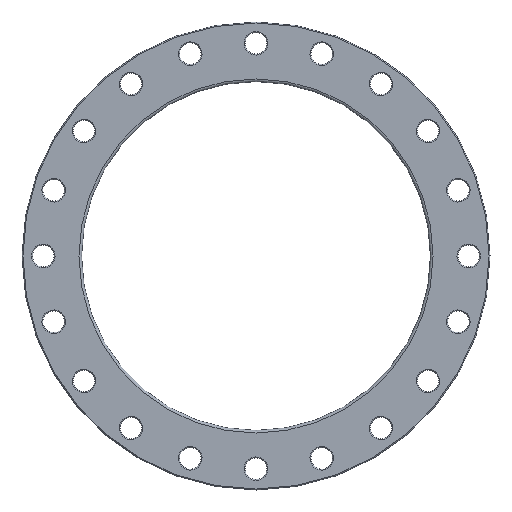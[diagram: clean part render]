
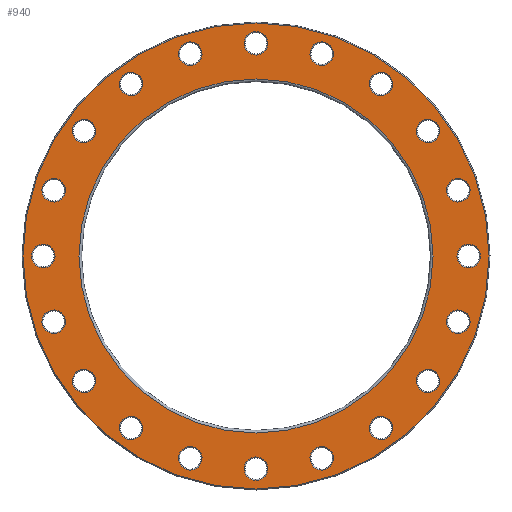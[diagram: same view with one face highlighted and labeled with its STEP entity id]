
A CAD part, front view. The second image highlights one B-rep face of the part: STEP entity #940.
In plain terms, the highlighted planar face has unit normal (0, -1, 0).
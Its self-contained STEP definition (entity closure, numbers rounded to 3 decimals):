
#23=PLANE('',#1104);
#206=ORIENTED_EDGE('',*,*,#325,.T.);
#207=ORIENTED_EDGE('',*,*,#326,.T.);
#208=ORIENTED_EDGE('',*,*,#244,.T.);
#209=ORIENTED_EDGE('',*,*,#248,.T.);
#210=ORIENTED_EDGE('',*,*,#252,.T.);
#211=ORIENTED_EDGE('',*,*,#256,.T.);
#212=ORIENTED_EDGE('',*,*,#260,.T.);
#213=ORIENTED_EDGE('',*,*,#264,.T.);
#214=ORIENTED_EDGE('',*,*,#268,.T.);
#215=ORIENTED_EDGE('',*,*,#272,.T.);
#216=ORIENTED_EDGE('',*,*,#276,.T.);
#217=ORIENTED_EDGE('',*,*,#280,.T.);
#218=ORIENTED_EDGE('',*,*,#284,.T.);
#219=ORIENTED_EDGE('',*,*,#288,.T.);
#220=ORIENTED_EDGE('',*,*,#292,.T.);
#221=ORIENTED_EDGE('',*,*,#296,.T.);
#222=ORIENTED_EDGE('',*,*,#300,.T.);
#223=ORIENTED_EDGE('',*,*,#304,.T.);
#224=ORIENTED_EDGE('',*,*,#308,.T.);
#225=ORIENTED_EDGE('',*,*,#312,.T.);
#226=ORIENTED_EDGE('',*,*,#316,.T.);
#227=ORIENTED_EDGE('',*,*,#327,.T.);
#244=EDGE_CURVE('',#332,#332,#420,.T.);
#248=EDGE_CURVE('',#336,#336,#424,.T.);
#252=EDGE_CURVE('',#340,#340,#428,.T.);
#256=EDGE_CURVE('',#344,#344,#432,.T.);
#260=EDGE_CURVE('',#348,#348,#436,.T.);
#264=EDGE_CURVE('',#352,#352,#440,.T.);
#268=EDGE_CURVE('',#356,#356,#444,.T.);
#272=EDGE_CURVE('',#360,#360,#448,.T.);
#276=EDGE_CURVE('',#364,#364,#452,.T.);
#280=EDGE_CURVE('',#368,#368,#456,.T.);
#284=EDGE_CURVE('',#372,#372,#460,.T.);
#288=EDGE_CURVE('',#376,#376,#464,.T.);
#292=EDGE_CURVE('',#380,#380,#468,.T.);
#296=EDGE_CURVE('',#384,#384,#472,.T.);
#300=EDGE_CURVE('',#388,#388,#476,.T.);
#304=EDGE_CURVE('',#392,#392,#480,.T.);
#308=EDGE_CURVE('',#396,#396,#484,.T.);
#312=EDGE_CURVE('',#400,#400,#488,.T.);
#316=EDGE_CURVE('',#404,#404,#492,.T.);
#325=EDGE_CURVE('',#413,#413,#501,.F.);
#326=EDGE_CURVE('',#414,#414,#502,.T.);
#327=EDGE_CURVE('',#415,#415,#503,.T.);
#332=VERTEX_POINT('',#1439);
#336=VERTEX_POINT('',#1450);
#340=VERTEX_POINT('',#1461);
#344=VERTEX_POINT('',#1472);
#348=VERTEX_POINT('',#1483);
#352=VERTEX_POINT('',#1494);
#356=VERTEX_POINT('',#1505);
#360=VERTEX_POINT('',#1516);
#364=VERTEX_POINT('',#1527);
#368=VERTEX_POINT('',#1538);
#372=VERTEX_POINT('',#1549);
#376=VERTEX_POINT('',#1560);
#380=VERTEX_POINT('',#1571);
#384=VERTEX_POINT('',#1582);
#388=VERTEX_POINT('',#1593);
#392=VERTEX_POINT('',#1604);
#396=VERTEX_POINT('',#1615);
#400=VERTEX_POINT('',#1626);
#404=VERTEX_POINT('',#1637);
#413=VERTEX_POINT('',#1660);
#414=VERTEX_POINT('',#1662);
#415=VERTEX_POINT('',#1664);
#420=CIRCLE('',#965,18.);
#424=CIRCLE('',#972,18.);
#428=CIRCLE('',#979,18.);
#432=CIRCLE('',#986,18.);
#436=CIRCLE('',#993,18.);
#440=CIRCLE('',#1000,18.);
#444=CIRCLE('',#1007,18.);
#448=CIRCLE('',#1014,18.);
#452=CIRCLE('',#1021,18.);
#456=CIRCLE('',#1028,18.);
#460=CIRCLE('',#1035,18.);
#464=CIRCLE('',#1042,18.);
#468=CIRCLE('',#1049,18.);
#472=CIRCLE('',#1056,18.);
#476=CIRCLE('',#1063,18.);
#480=CIRCLE('',#1070,18.);
#484=CIRCLE('',#1077,18.);
#488=CIRCLE('',#1084,18.);
#492=CIRCLE('',#1091,18.);
#501=CIRCLE('',#1105,356.);
#502=CIRCLE('',#1106,270.5);
#503=CIRCLE('',#1107,18.);
#646=EDGE_LOOP('',(#206));
#647=EDGE_LOOP('',(#207));
#648=EDGE_LOOP('',(#208));
#649=EDGE_LOOP('',(#209));
#650=EDGE_LOOP('',(#210));
#651=EDGE_LOOP('',(#211));
#652=EDGE_LOOP('',(#212));
#653=EDGE_LOOP('',(#213));
#654=EDGE_LOOP('',(#214));
#655=EDGE_LOOP('',(#215));
#656=EDGE_LOOP('',(#216));
#657=EDGE_LOOP('',(#217));
#658=EDGE_LOOP('',(#218));
#659=EDGE_LOOP('',(#219));
#660=EDGE_LOOP('',(#220));
#661=EDGE_LOOP('',(#221));
#662=EDGE_LOOP('',(#222));
#663=EDGE_LOOP('',(#223));
#664=EDGE_LOOP('',(#224));
#665=EDGE_LOOP('',(#225));
#666=EDGE_LOOP('',(#226));
#667=EDGE_LOOP('',(#227));
#822=FACE_BOUND('',#646,.T.);
#823=FACE_BOUND('',#647,.T.);
#824=FACE_BOUND('',#648,.T.);
#825=FACE_BOUND('',#649,.T.);
#826=FACE_BOUND('',#650,.T.);
#827=FACE_BOUND('',#651,.T.);
#828=FACE_BOUND('',#652,.T.);
#829=FACE_BOUND('',#653,.T.);
#830=FACE_BOUND('',#654,.T.);
#831=FACE_BOUND('',#655,.T.);
#832=FACE_BOUND('',#656,.T.);
#833=FACE_BOUND('',#657,.T.);
#834=FACE_BOUND('',#658,.T.);
#835=FACE_BOUND('',#659,.T.);
#836=FACE_BOUND('',#660,.T.);
#837=FACE_BOUND('',#661,.T.);
#838=FACE_BOUND('',#662,.T.);
#839=FACE_BOUND('',#663,.T.);
#840=FACE_BOUND('',#664,.T.);
#841=FACE_BOUND('',#665,.T.);
#842=FACE_BOUND('',#666,.T.);
#843=FACE_BOUND('',#667,.T.);
#940=ADVANCED_FACE('',(#822,#823,#824,#825,#826,#827,#828,#829,#830,#831,
#832,#833,#834,#835,#836,#837,#838,#839,#840,#841,#842,#843),#23,.F.);
#965=AXIS2_PLACEMENT_3D('',#1438,#1127,#1128);
#972=AXIS2_PLACEMENT_3D('',#1449,#1141,#1142);
#979=AXIS2_PLACEMENT_3D('',#1460,#1155,#1156);
#986=AXIS2_PLACEMENT_3D('',#1471,#1169,#1170);
#993=AXIS2_PLACEMENT_3D('',#1482,#1183,#1184);
#1000=AXIS2_PLACEMENT_3D('',#1493,#1197,#1198);
#1007=AXIS2_PLACEMENT_3D('',#1504,#1211,#1212);
#1014=AXIS2_PLACEMENT_3D('',#1515,#1225,#1226);
#1021=AXIS2_PLACEMENT_3D('',#1526,#1239,#1240);
#1028=AXIS2_PLACEMENT_3D('',#1537,#1253,#1254);
#1035=AXIS2_PLACEMENT_3D('',#1548,#1267,#1268);
#1042=AXIS2_PLACEMENT_3D('',#1559,#1281,#1282);
#1049=AXIS2_PLACEMENT_3D('',#1570,#1295,#1296);
#1056=AXIS2_PLACEMENT_3D('',#1581,#1309,#1310);
#1063=AXIS2_PLACEMENT_3D('',#1592,#1323,#1324);
#1070=AXIS2_PLACEMENT_3D('',#1603,#1337,#1338);
#1077=AXIS2_PLACEMENT_3D('',#1614,#1351,#1352);
#1084=AXIS2_PLACEMENT_3D('',#1625,#1365,#1366);
#1091=AXIS2_PLACEMENT_3D('',#1636,#1379,#1380);
#1104=AXIS2_PLACEMENT_3D('',#1658,#1405,#1406);
#1105=AXIS2_PLACEMENT_3D('',#1659,#1407,#1408);
#1106=AXIS2_PLACEMENT_3D('',#1661,#1409,#1410);
#1107=AXIS2_PLACEMENT_3D('',#1663,#1411,#1412);
#1127=DIRECTION('',(0.,1.,0.));
#1128=DIRECTION('',(0.951,0.,0.309));
#1141=DIRECTION('',(0.,1.,0.));
#1142=DIRECTION('',(0.809,0.,0.588));
#1155=DIRECTION('',(0.,1.,0.));
#1156=DIRECTION('',(0.588,0.,0.809));
#1169=DIRECTION('',(0.,1.,0.));
#1170=DIRECTION('',(0.309,0.,0.951));
#1183=DIRECTION('',(0.,1.,0.));
#1184=DIRECTION('',(0.,0.,1.));
#1197=DIRECTION('',(0.,1.,0.));
#1198=DIRECTION('',(-0.309,0.,0.951));
#1211=DIRECTION('',(0.,1.,0.));
#1212=DIRECTION('',(-0.588,0.,0.809));
#1225=DIRECTION('',(0.,1.,0.));
#1226=DIRECTION('',(-0.809,0.,0.588));
#1239=DIRECTION('',(0.,1.,0.));
#1240=DIRECTION('',(-0.951,0.,0.309));
#1253=DIRECTION('',(0.,1.,0.));
#1254=DIRECTION('',(-1.,0.,0.));
#1267=DIRECTION('',(0.,1.,0.));
#1268=DIRECTION('',(-0.951,0.,-0.309));
#1281=DIRECTION('',(0.,1.,0.));
#1282=DIRECTION('',(-0.809,0.,-0.588));
#1295=DIRECTION('',(0.,1.,0.));
#1296=DIRECTION('',(-0.588,0.,-0.809));
#1309=DIRECTION('',(0.,1.,0.));
#1310=DIRECTION('',(-0.309,0.,-0.951));
#1323=DIRECTION('',(0.,1.,0.));
#1324=DIRECTION('',(0.,0.,-1.));
#1337=DIRECTION('',(0.,1.,0.));
#1338=DIRECTION('',(0.309,0.,-0.951));
#1351=DIRECTION('',(0.,1.,0.));
#1352=DIRECTION('',(0.588,0.,-0.809));
#1365=DIRECTION('',(0.,1.,0.));
#1366=DIRECTION('',(0.809,0.,-0.588));
#1379=DIRECTION('',(0.,1.,0.));
#1380=DIRECTION('',(0.951,0.,-0.309));
#1405=DIRECTION('',(0.,1.,0.));
#1406=DIRECTION('',(0.,0.,1.));
#1407=DIRECTION('',(0.,1.,0.));
#1408=DIRECTION('',(0.,0.,1.));
#1409=DIRECTION('',(0.,1.,0.));
#1410=DIRECTION('',(0.,0.,1.));
#1411=DIRECTION('',(0.,1.,0.));
#1412=DIRECTION('',(1.,0.,0.));
#1438=CARTESIAN_POINT('',(-100.431,0.,309.093));
#1439=CARTESIAN_POINT('',(-83.312,0.,314.656));
#1449=CARTESIAN_POINT('',(-191.03,0.,262.931));
#1450=CARTESIAN_POINT('',(-176.468,0.,273.511));
#1460=CARTESIAN_POINT('',(-262.931,0.,191.03));
#1461=CARTESIAN_POINT('',(-252.35,0.,205.593));
#1471=CARTESIAN_POINT('',(-309.093,0.,100.431));
#1472=CARTESIAN_POINT('',(-303.531,0.,117.55));
#1482=CARTESIAN_POINT('',(-325.,0.,0.));
#1483=CARTESIAN_POINT('',(-325.,0.,18.));
#1493=CARTESIAN_POINT('',(-309.093,0.,-100.431));
#1494=CARTESIAN_POINT('',(-314.656,0.,-83.312));
#1504=CARTESIAN_POINT('',(-262.931,0.,-191.03));
#1505=CARTESIAN_POINT('',(-273.511,0.,-176.468));
#1515=CARTESIAN_POINT('',(-191.03,0.,-262.931));
#1516=CARTESIAN_POINT('',(-205.593,0.,-252.35));
#1526=CARTESIAN_POINT('',(-100.431,0.,-309.093));
#1527=CARTESIAN_POINT('',(-117.55,0.,-303.531));
#1537=CARTESIAN_POINT('',(0.,0.,-325.));
#1538=CARTESIAN_POINT('',(-18.,0.,-325.));
#1548=CARTESIAN_POINT('',(100.431,0.,-309.093));
#1549=CARTESIAN_POINT('',(83.312,0.,-314.656));
#1559=CARTESIAN_POINT('',(191.03,0.,-262.931));
#1560=CARTESIAN_POINT('',(176.468,0.,-273.511));
#1570=CARTESIAN_POINT('',(262.931,0.,-191.03));
#1571=CARTESIAN_POINT('',(252.35,0.,-205.593));
#1581=CARTESIAN_POINT('',(309.093,0.,-100.431));
#1582=CARTESIAN_POINT('',(303.531,0.,-117.55));
#1592=CARTESIAN_POINT('',(325.,0.,0.));
#1593=CARTESIAN_POINT('',(325.,0.,-18.));
#1603=CARTESIAN_POINT('',(309.093,0.,100.431));
#1604=CARTESIAN_POINT('',(314.656,0.,83.312));
#1614=CARTESIAN_POINT('',(262.931,0.,191.03));
#1615=CARTESIAN_POINT('',(273.511,0.,176.468));
#1625=CARTESIAN_POINT('',(191.03,0.,262.931));
#1626=CARTESIAN_POINT('',(205.593,0.,252.35));
#1636=CARTESIAN_POINT('',(100.431,0.,309.093));
#1637=CARTESIAN_POINT('',(117.55,0.,303.531));
#1658=CARTESIAN_POINT('',(0.,0.,0.));
#1659=CARTESIAN_POINT('',(0.,0.,0.));
#1660=CARTESIAN_POINT('',(0.,0.,356.));
#1661=CARTESIAN_POINT('',(0.,0.,0.));
#1662=CARTESIAN_POINT('',(0.,0.,270.5));
#1663=CARTESIAN_POINT('',(0.,0.,325.));
#1664=CARTESIAN_POINT('',(18.,0.,325.));
